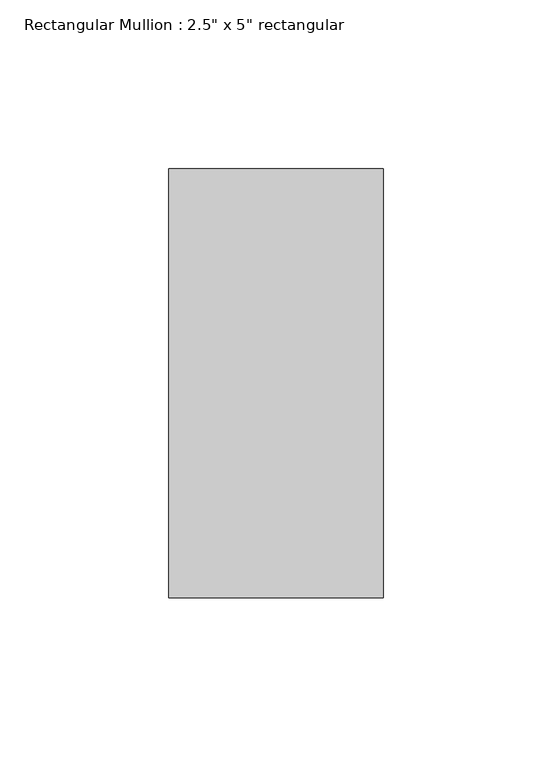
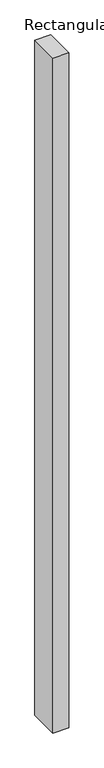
"""IFC4 building model written with IfcOpenShell, lengths in millimetres: member geometry."""

from ifc_helpers import new_model, si_unit, frame, origin, place, context, project, spatial, polyline, outline, extrude, source, transform, mapped, element, save


def member_01029f2d(model_context):
    return source(origin(), model_context, "Body", "SweptSolid", [
        extrude(outline(polyline([(31.75, 63.5), (31.75, -63.5), (-31.75, -63.5), (-31.75, 63.5), (31.75, 63.5)])), frame((0.0, 0.0, -2894.5450294), z_axis=(0.0, 0.0, 1.0), x_axis=(1.0, 0.0, 0.0)), (0.0, 0.0, 1.0), 2894.5450294),
    ])


if __name__ == "__main__":
    model = new_model("IFC4")
    model_context = context("Model", 3, world=origin())
    ifc_project = project(units=[si_unit("LENGTHUNIT", "METRE", prefix="MILLI")], contexts=[model_context])
    site = spatial("IfcSite", under=ifc_project)
    building = spatial("IfcBuilding", under=site)
    placement = place(None, origin())
    member_shape = member_01029f2d(model_context)
    element("IfcMember", 1, ObjectType="Rectangular Mullion : 2.5\" x 5\" rectangular", at=placement, inside=building, context=model_context, shape_type="MappedRepresentation", body=[
        mapped(member_shape, transform((0.0, 0.0, 0.0), x_axis=(1.0, 0.0, 0.0), y_axis=(0.0, 1.0, 0.0), z_axis=(0.0, 0.0, 1.0))),
    ])
    save(model, "model.ifc")
